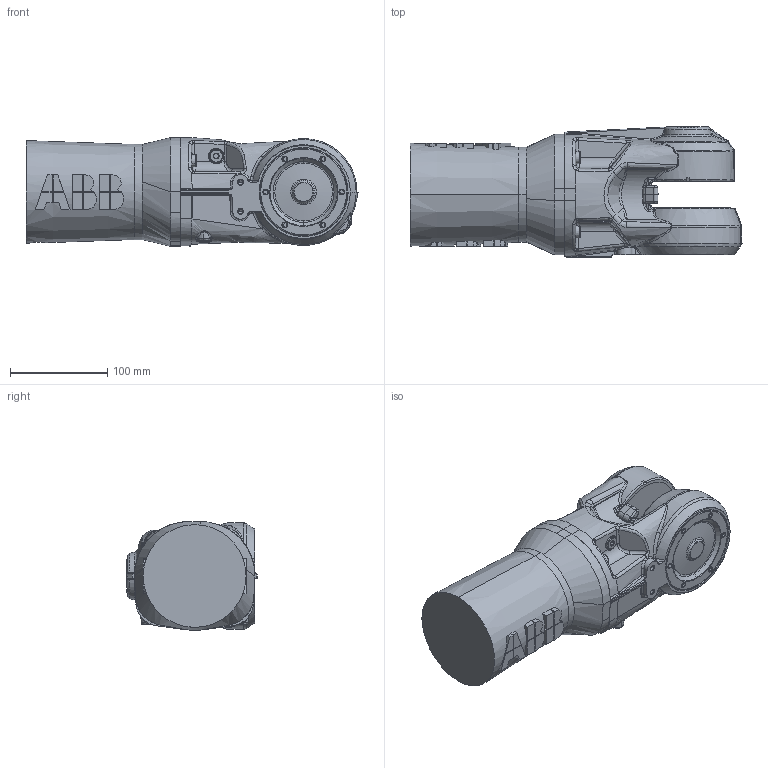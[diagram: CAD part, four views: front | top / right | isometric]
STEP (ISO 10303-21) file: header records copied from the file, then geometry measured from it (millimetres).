
FILE_DESCRIPTION (( 'STEP AP214' ), '1' );
FILE_NAME ('IRB1600_X-120_IRC5_rev1_LINK4.STEP', '2021-11-26T04:56:40', ( '' ), ( '' ), 'SwSTEP 2.0', 'SolidWorks 2020', '' );
FILE_SCHEMA (( 'AUTOMOTIVE_DESIGN' ));
Length unit declared in the file: millimetre
Products named in the file (1): IRB1600_X-120_IRC5_rev1_LINK4
Bounding box: 342 x 134.47 x 112 mm (x, y, z)
Volume: 2921897 mm3; surface area: 199561 mm2
Topology: 12 solids, 12 shells, 1214 faces, 2905 edges, 1755 vertices
Faces by surface type: bspline 490, plane 378, cylinder 181, cone 155, torus 10
Entity records: 75709 total; most frequent: CARTESIAN_POINT 37969, ORIENTED_EDGE 5772, DIRECTION 4033, EDGE_CURVE 2886, VERTEX_POINT 1755, AXIS2_PLACEMENT_3D 1550, EDGE_LOOP 1287, UNCERTAINTY_MEASURE_WITH_UNIT 1228
